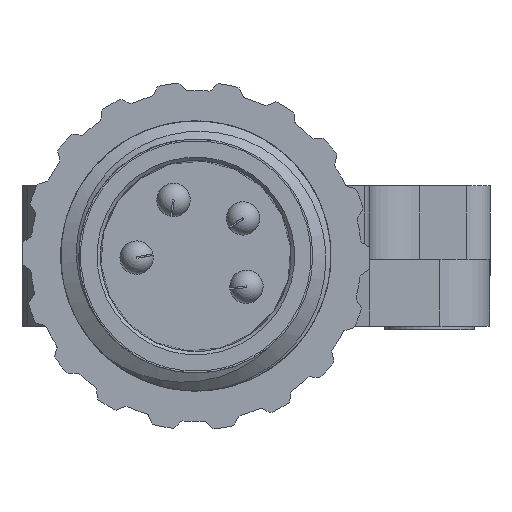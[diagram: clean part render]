
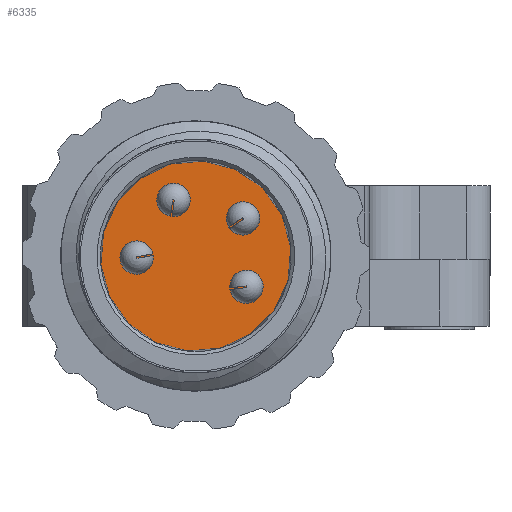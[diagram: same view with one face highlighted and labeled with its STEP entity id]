
A CAD part, left-side view. The second image highlights one B-rep face of the part: STEP entity #6335.
In plain terms, the highlighted planar face has unit normal (-1, 0, 0).
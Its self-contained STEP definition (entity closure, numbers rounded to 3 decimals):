
#5580=FACE_BOUND('',#7878,.T.);
#5581=FACE_BOUND('',#7879,.T.);
#5582=FACE_BOUND('',#7880,.T.);
#5583=FACE_BOUND('',#7881,.T.);
#5584=FACE_BOUND('',#7882,.T.);
#6335=ADVANCED_FACE('',(#5580,#5581,#5582,#5583,#5584),#6643,.T.);
#6643=PLANE('',#17052);
#7878=EDGE_LOOP('',(#11511));
#7879=EDGE_LOOP('',(#11512,#11513,#11514,#11515));
#7880=EDGE_LOOP('',(#11516,#11517,#11518,#11519));
#7881=EDGE_LOOP('',(#11520,#11521,#11522,#11523));
#7882=EDGE_LOOP('',(#11524,#11525,#11526,#11527));
#8374=CIRCLE('',#17043,2.85);
#8375=CIRCLE('',#17044,0.5);
#8376=CIRCLE('',#17045,0.3);
#8377=CIRCLE('',#17046,0.5);
#8378=CIRCLE('',#17047,0.3);
#8379=CIRCLE('',#17048,0.5);
#8380=CIRCLE('',#17049,0.3);
#8381=CIRCLE('',#17050,0.5);
#8382=CIRCLE('',#17051,0.3);
#11511=ORIENTED_EDGE('',*,*,#14664,.T.);
#11512=ORIENTED_EDGE('',*,*,#14665,.F.);
#11513=ORIENTED_EDGE('',*,*,#14666,.F.);
#11514=ORIENTED_EDGE('',*,*,#14667,.T.);
#11515=ORIENTED_EDGE('',*,*,#14668,.F.);
#11516=ORIENTED_EDGE('',*,*,#14669,.F.);
#11517=ORIENTED_EDGE('',*,*,#14670,.F.);
#11518=ORIENTED_EDGE('',*,*,#14671,.T.);
#11519=ORIENTED_EDGE('',*,*,#14672,.F.);
#11520=ORIENTED_EDGE('',*,*,#14673,.F.);
#11521=ORIENTED_EDGE('',*,*,#14674,.F.);
#11522=ORIENTED_EDGE('',*,*,#14675,.T.);
#11523=ORIENTED_EDGE('',*,*,#14676,.F.);
#11524=ORIENTED_EDGE('',*,*,#14677,.F.);
#11525=ORIENTED_EDGE('',*,*,#14678,.F.);
#11526=ORIENTED_EDGE('',*,*,#14679,.T.);
#11527=ORIENTED_EDGE('',*,*,#14680,.F.);
#12982=VERTEX_POINT('',#32389);
#12983=VERTEX_POINT('',#32391);
#12984=VERTEX_POINT('',#32392);
#12985=VERTEX_POINT('',#32394);
#12986=VERTEX_POINT('',#32396);
#12987=VERTEX_POINT('',#32399);
#12988=VERTEX_POINT('',#32400);
#12989=VERTEX_POINT('',#32402);
#12990=VERTEX_POINT('',#32404);
#12991=VERTEX_POINT('',#32407);
#12992=VERTEX_POINT('',#32408);
#12993=VERTEX_POINT('',#32410);
#12994=VERTEX_POINT('',#32412);
#12995=VERTEX_POINT('',#32415);
#12996=VERTEX_POINT('',#32416);
#12997=VERTEX_POINT('',#32418);
#12998=VERTEX_POINT('',#32420);
#14664=EDGE_CURVE('',#12982,#12982,#8374,.T.);
#14665=EDGE_CURVE('',#12983,#12984,#8375,.T.);
#14666=EDGE_CURVE('',#12985,#12983,#15491,.T.);
#14667=EDGE_CURVE('',#12985,#12986,#8376,.T.);
#14668=EDGE_CURVE('',#12984,#12986,#15492,.T.);
#14669=EDGE_CURVE('',#12987,#12988,#8377,.T.);
#14670=EDGE_CURVE('',#12989,#12987,#15493,.T.);
#14671=EDGE_CURVE('',#12989,#12990,#8378,.T.);
#14672=EDGE_CURVE('',#12988,#12990,#15494,.T.);
#14673=EDGE_CURVE('',#12991,#12992,#8379,.T.);
#14674=EDGE_CURVE('',#12993,#12991,#15495,.T.);
#14675=EDGE_CURVE('',#12993,#12994,#8380,.T.);
#14676=EDGE_CURVE('',#12992,#12994,#15496,.T.);
#14677=EDGE_CURVE('',#12995,#12996,#8381,.T.);
#14678=EDGE_CURVE('',#12997,#12995,#15497,.T.);
#14679=EDGE_CURVE('',#12997,#12998,#8382,.T.);
#14680=EDGE_CURVE('',#12996,#12998,#15498,.T.);
#15491=LINE('',#32393,#16170);
#15492=LINE('',#32397,#16171);
#15493=LINE('',#32401,#16172);
#15494=LINE('',#32405,#16173);
#15495=LINE('',#32409,#16174);
#15496=LINE('',#32413,#16175);
#15497=LINE('',#32417,#16176);
#15498=LINE('',#32421,#16177);
#16170=VECTOR('',#19441,1.);
#16171=VECTOR('',#19444,1.);
#16172=VECTOR('',#19447,1.);
#16173=VECTOR('',#19450,1.);
#16174=VECTOR('',#19453,1.);
#16175=VECTOR('',#19456,1.);
#16176=VECTOR('',#19459,1.);
#16177=VECTOR('',#19462,1.);
#17043=AXIS2_PLACEMENT_3D('',#32388,#19437,#19438);
#17044=AXIS2_PLACEMENT_3D('',#32390,#19439,#19440);
#17045=AXIS2_PLACEMENT_3D('',#32395,#19442,#19443);
#17046=AXIS2_PLACEMENT_3D('',#32398,#19445,#19446);
#17047=AXIS2_PLACEMENT_3D('',#32403,#19448,#19449);
#17048=AXIS2_PLACEMENT_3D('',#32406,#19451,#19452);
#17049=AXIS2_PLACEMENT_3D('',#32411,#19454,#19455);
#17050=AXIS2_PLACEMENT_3D('',#32414,#19457,#19458);
#17051=AXIS2_PLACEMENT_3D('',#32419,#19460,#19461);
#17052=AXIS2_PLACEMENT_3D('',#32422,#19463,#19464);
#19437=DIRECTION('',(-1.,0.,0.));
#19438=DIRECTION('',(0.,-0.967,-0.257));
#19439=DIRECTION('',(-1.,0.,0.));
#19440=DIRECTION('',(0.,0.,1.));
#19441=DIRECTION('',(0.,-0.985,0.175));
#19442=DIRECTION('',(-1.,0.,0.));
#19443=DIRECTION('',(0.,0.,1.));
#19444=DIRECTION('',(0.,0.985,-0.175));
#19445=DIRECTION('',(-1.,0.,0.));
#19446=DIRECTION('',(0.,0.,1.));
#19447=DIRECTION('',(0.,0.821,-0.571));
#19448=DIRECTION('',(-1.,0.,0.));
#19449=DIRECTION('',(0.,0.,1.));
#19450=DIRECTION('',(0.,-0.821,0.571));
#19451=DIRECTION('',(-1.,0.,0.));
#19452=DIRECTION('',(0.,0.,1.));
#19453=DIRECTION('',(0.,0.993,-0.121));
#19454=DIRECTION('',(-1.,0.,0.));
#19455=DIRECTION('',(0.,0.,1.));
#19456=DIRECTION('',(0.,-0.993,0.121));
#19457=DIRECTION('',(-1.,0.,0.));
#19458=DIRECTION('',(0.,0.,1.));
#19459=DIRECTION('',(0.,0.135,-0.991));
#19460=DIRECTION('',(-1.,0.,0.));
#19461=DIRECTION('',(0.,0.,1.));
#19462=DIRECTION('',(0.,-0.135,0.991));
#19463=DIRECTION('',(-1.,0.,0.));
#19464=DIRECTION('',(0.,-0.967,-0.257));
#32388=CARTESIAN_POINT('',(-74.501,11.154,-0.9));
#32389=CARTESIAN_POINT('',(-74.501,8.4,-1.631));
#32390=CARTESIAN_POINT('',(-74.501,12.926,-0.947));
#32391=CARTESIAN_POINT('',(-74.501,12.438,-0.835));
#32392=CARTESIAN_POINT('',(-74.501,12.43,-0.884));
#32393=CARTESIAN_POINT('',(-74.501,8.795,-0.187));
#32394=CARTESIAN_POINT('',(-74.501,12.636,-0.87));
#32395=CARTESIAN_POINT('',(-74.501,12.926,-0.947));
#32396=CARTESIAN_POINT('',(-74.501,12.627,-0.919));
#32397=CARTESIAN_POINT('',(-74.501,8.786,-0.237));
#32398=CARTESIAN_POINT('',(-74.501,9.743,0.226));
#32399=CARTESIAN_POINT('',(-74.501,10.139,-0.08));
#32400=CARTESIAN_POINT('',(-74.501,10.168,-0.039));
#32401=CARTESIAN_POINT('',(-74.501,13.177,-2.193));
#32402=CARTESIAN_POINT('',(-74.501,9.974,0.034));
#32403=CARTESIAN_POINT('',(-74.501,9.743,0.226));
#32404=CARTESIAN_POINT('',(-74.501,10.003,0.076));
#32405=CARTESIAN_POINT('',(-74.501,13.206,-2.152));
#32406=CARTESIAN_POINT('',(-74.501,9.639,-1.819));
#32407=CARTESIAN_POINT('',(-74.501,10.132,-1.905));
#32408=CARTESIAN_POINT('',(-74.501,10.138,-1.855));
#32409=CARTESIAN_POINT('',(-74.501,13.806,-2.352));
#32410=CARTESIAN_POINT('',(-74.501,9.933,-1.88));
#32411=CARTESIAN_POINT('',(-74.501,9.639,-1.819));
#32412=CARTESIAN_POINT('',(-74.501,9.939,-1.831));
#32413=CARTESIAN_POINT('',(-74.501,13.812,-2.302));
#32414=CARTESIAN_POINT('',(-74.501,11.821,0.777));
#32415=CARTESIAN_POINT('',(-74.501,11.864,0.279));
#32416=CARTESIAN_POINT('',(-74.501,11.913,0.286));
#32417=CARTESIAN_POINT('',(-74.501,12.362,-3.388));
#32418=CARTESIAN_POINT('',(-74.501,11.837,0.478));
#32419=CARTESIAN_POINT('',(-74.501,11.821,0.777));
#32420=CARTESIAN_POINT('',(-74.501,11.886,0.484));
#32421=CARTESIAN_POINT('',(-74.501,12.412,-3.381));
#32422=CARTESIAN_POINT('',(-74.501,11.154,-0.9));
